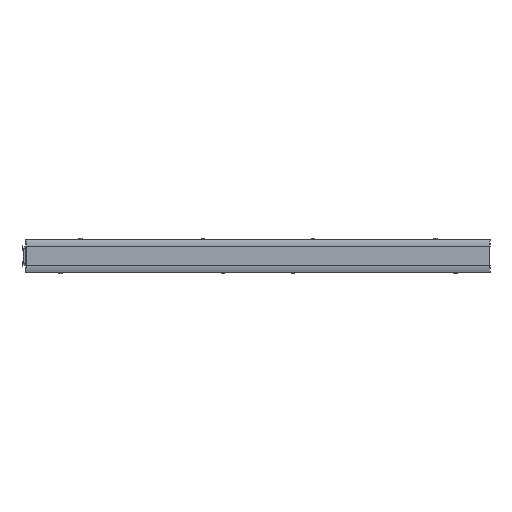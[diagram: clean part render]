
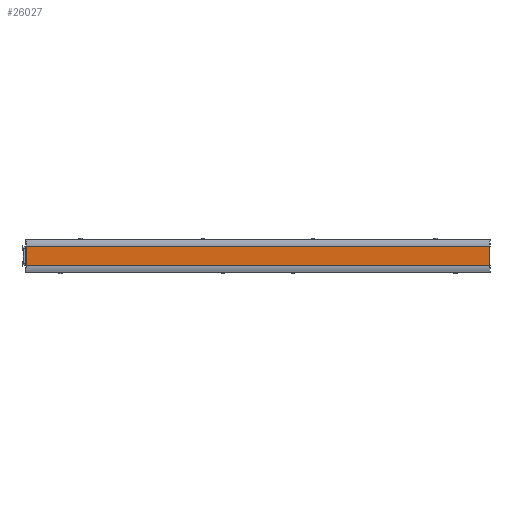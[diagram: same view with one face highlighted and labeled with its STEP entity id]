
A CAD part, top view. The second image highlights one B-rep face of the part: STEP entity #26027.
In plain terms, the highlighted planar face has unit normal (0, 0, 1).
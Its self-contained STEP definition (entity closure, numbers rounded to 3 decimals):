
#4798=ORIENTED_EDGE('',*,*,#11965,.T.);
#4799=ORIENTED_EDGE('',*,*,#11967,.T.);
#4800=ORIENTED_EDGE('',*,*,#11968,.T.);
#4801=ORIENTED_EDGE('',*,*,#11969,.T.);
#11965=EDGE_CURVE('',#15617,#15616,#17806,.F.);
#11967=EDGE_CURVE('',#15616,#15618,#17807,.F.);
#11968=EDGE_CURVE('',#15618,#15619,#17808,.T.);
#11969=EDGE_CURVE('',#15619,#15617,#17809,.F.);
#15616=VERTEX_POINT('',#40224);
#15617=VERTEX_POINT('',#40226);
#15618=VERTEX_POINT('',#40230);
#15619=VERTEX_POINT('',#40232);
#17806=LINE('',#40225,#19227);
#17807=LINE('',#40229,#19228);
#17808=LINE('',#40231,#19229);
#17809=LINE('',#40233,#19230);
#19227=VECTOR('',#32257,1000.);
#19228=VECTOR('',#32262,1000.);
#19229=VECTOR('',#32263,1000.);
#19230=VECTOR('',#32264,1000.);
#20912=EDGE_LOOP('',(#4798,#4799,#4800,#4801));
#23269=FACE_BOUND('',#20912,.T.);
#25144=PLANE('',#28194);
#26027=ADVANCED_FACE('',(#23269),#25144,.T.);
#28194=AXIS2_PLACEMENT_3D('',#40228,#32260,#32261);
#32257=DIRECTION('',(-1.,0.,0.));
#32260=DIRECTION('',(0.,0.,1.));
#32261=DIRECTION('',(1.,0.,0.));
#32262=DIRECTION('',(0.,-1.,0.));
#32263=DIRECTION('',(-1.,0.,0.));
#32264=DIRECTION('',(0.,1.,0.));
#40224=CARTESIAN_POINT('',(278.814,-12.,8.4));
#40225=CARTESIAN_POINT('',(564.68,-12.,8.4));
#40226=CARTESIAN_POINT('',(-278.814,-12.,8.4));
#40228=CARTESIAN_POINT('',(0.,0.,8.4));
#40229=CARTESIAN_POINT('',(278.814,0.,8.4));
#40230=CARTESIAN_POINT('',(278.814,12.,8.4));
#40231=CARTESIAN_POINT('',(564.68,12.,8.4));
#40232=CARTESIAN_POINT('',(-278.814,12.,8.4));
#40233=CARTESIAN_POINT('',(-278.814,0.,8.4));
